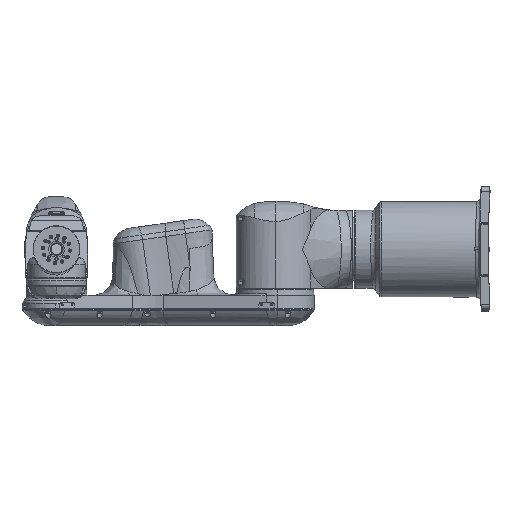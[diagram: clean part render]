
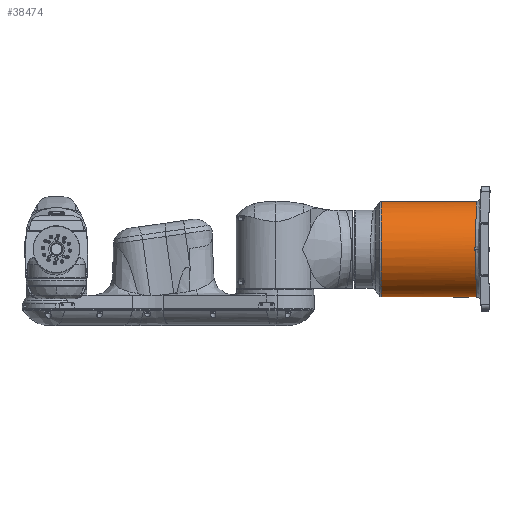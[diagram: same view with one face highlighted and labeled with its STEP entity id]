
A CAD part, left-side view. The second image highlights one B-rep face of the part: STEP entity #38474.
In plain terms, the highlighted cylindrical face has radius 91.5 mm (diameter 183 mm), a partial arc.
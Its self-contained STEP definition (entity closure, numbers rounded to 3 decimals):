
#944 = EDGE_CURVE ( 'NONE', #69319, #95510, #19509, .T. ) ;
#5030 = VERTEX_POINT ( 'NONE', #102233 ) ;
#5532 = LINE ( 'NONE', #108097, #35534 ) ;
#7157 = VECTOR ( 'NONE', #74802, 1000. ) ;
#8079 = CARTESIAN_POINT ( 'NONE',  ( 1.5, -234.336, -91.5 ) ) ;
#9533 = VERTEX_POINT ( 'NONE', #31709 ) ;
#15737 = ORIENTED_EDGE ( 'NONE', *, *, #75464, .T. ) ;
#16885 = VERTEX_POINT ( 'NONE', #106451 ) ;
#17861 = CARTESIAN_POINT ( 'NONE',  ( 93., -231.152, 0.333 ) ) ;
#19509 = LINE ( 'NONE', #39605, #150591 ) ;
#25044 = B_SPLINE_CURVE_WITH_KNOTS ( 'NONE', 3,
 ( #60784, #149369, #73492, #162239 ),
 .UNSPECIFIED., .F., .F.,
 ( 4, 4 ),
 ( 0., 1. ),
 .UNSPECIFIED. ) ;
#25387 = EDGE_CURVE ( 'NONE', #5030, #128529, #130453, .T. ) ;
#26789 = ORIENTED_EDGE ( 'NONE', *, *, #159710, .T. ) ;
#29302 = VECTOR ( 'NONE', #105894, 1000. ) ;
#31709 = CARTESIAN_POINT ( 'NONE',  ( 93., -231.152, 0.333 ) ) ;
#35534 = VECTOR ( 'NONE', #158634, 1000. ) ;
#37554 = CIRCLE ( 'NONE', #43563, 91.5 ) ;
#38474 = ADVANCED_FACE ( 'NONE', ( #94382 ), #141894, .T. ) ;
#39406 = CARTESIAN_POINT ( 'NONE',  ( 93., -231.152, -0.333 ) ) ;
#39605 = CARTESIAN_POINT ( 'NONE',  ( 1.5, -257., -91.5 ) ) ;
#41355 = CARTESIAN_POINT ( 'NONE',  ( 93., -231.152, 0.333 ) ) ;
#42274 = DIRECTION ( 'NONE',  ( 0., 1., 0. ) ) ;
#43563 = AXIS2_PLACEMENT_3D ( 'NONE', #136985, #61212, #149766 ) ;
#44736 =( BOUNDED_CURVE ( )  B_SPLINE_CURVE ( 3, ( #81252, #68542, #94042, #17861 ),
 .UNSPECIFIED., .F., .F. ) 
 B_SPLINE_CURVE_WITH_KNOTS ( ( 4, 4 ),
 ( 3.142, 4.709 ),
 .UNSPECIFIED. ) 
 CURVE ( )  GEOMETRIC_REPRESENTATION_ITEM ( )  RATIONAL_B_SPLINE_CURVE ( ( 1., 0.806, 0.806, 1. ) ) 
 REPRESENTATION_ITEM ( '' )  );
#52841 = VERTEX_POINT ( 'NONE', #84875 ) ;
#54376 = ORIENTED_EDGE ( 'NONE', *, *, #25387, .F. ) ;
#54666 = CARTESIAN_POINT ( 'NONE',  ( 93., -239.002, 0.059 ) ) ;
#55923 = DIRECTION ( 'NONE',  ( 0., 0., 1. ) ) ;
#58889 = CARTESIAN_POINT ( 'NONE',  ( 93., -231.152, -0.333 ) ) ;
#60114 = CARTESIAN_POINT ( 'NONE',  ( 1.5, -234.336, 91.5 ) ) ;
#60784 = CARTESIAN_POINT ( 'NONE',  ( 93., -239.002, -0.059 ) ) ;
#61212 = DIRECTION ( 'NONE',  ( 0., -1., 0. ) ) ;
#68542 = CARTESIAN_POINT ( 'NONE',  ( 54.945, -234.336, 91.5 ) ) ;
#69319 = VERTEX_POINT ( 'NONE', #162935 ) ;
#73492 = CARTESIAN_POINT ( 'NONE',  ( 93., -233.769, -0.242 ) ) ;
#74742 = EDGE_LOOP ( 'NONE', ( #107467, #152014, #26789, #112174, #15737, #54376, #136346, #124848, #163547 ) ) ;
#74802 = DIRECTION ( 'NONE',  ( 0., -1., 0. ) ) ;
#74897 = LINE ( 'NONE', #137902, #7157 ) ;
#75464 = EDGE_CURVE ( 'NONE', #9533, #128529, #77545, .T. ) ;
#77545 = B_SPLINE_CURVE_WITH_KNOTS ( 'NONE', 3,
 ( #41355, #92349, #130478, #54666 ),
 .UNSPECIFIED., .F., .F.,
 ( 4, 4 ),
 ( 0., 1. ),
 .UNSPECIFIED. ) ;
#81252 = CARTESIAN_POINT ( 'NONE',  ( 1.5, -234.336, 91.5 ) ) ;
#84271 = CARTESIAN_POINT ( 'NONE',  ( 54.945, -234.336, -91.5 ) ) ;
#84778 = EDGE_CURVE ( 'NONE', #52841, #159186, #25044, .T. ) ;
#84875 = CARTESIAN_POINT ( 'NONE',  ( 93., -239.002, -0.059 ) ) ;
#91533 = CARTESIAN_POINT ( 'NONE',  ( 1.5, -51.676, -91.5 ) ) ;
#92349 = CARTESIAN_POINT ( 'NONE',  ( 93., -233.769, 0.242 ) ) ;
#94042 = CARTESIAN_POINT ( 'NONE',  ( 92.805, -233.019, 53.778 ) ) ;
#94382 = FACE_OUTER_BOUND ( 'NONE', #74742, .T. ) ;
#95510 = VERTEX_POINT ( 'NONE', #91533 ) ;
#102233 = CARTESIAN_POINT ( 'NONE',  ( 93., -239., 0. ) ) ;
#105894 = DIRECTION ( 'NONE',  ( 0., -0.035, 0.999 ) ) ;
#106430 = CARTESIAN_POINT ( 'NONE',  ( 93., -239., 0. ) ) ;
#106451 = CARTESIAN_POINT ( 'NONE',  ( 1.5, -51.676, 91.5 ) ) ;
#107467 = ORIENTED_EDGE ( 'NONE', *, *, #944, .T. ) ;
#108097 = CARTESIAN_POINT ( 'NONE',  ( 93., -239.002, -0.059 ) ) ;
#112174 = ORIENTED_EDGE ( 'NONE', *, *, #163806, .T. ) ;
#112825 = EDGE_CURVE ( 'NONE', #95510, #16885, #37554, .T. ) ;
#113295 = EDGE_CURVE ( 'NONE', #52841, #5030, #5532, .T. ) ;
#124848 = ORIENTED_EDGE ( 'NONE', *, *, #84778, .T. ) ;
#126820 = AXIS2_PLACEMENT_3D ( 'NONE', #144023, #131734, #55923 ) ;
#128529 = VERTEX_POINT ( 'NONE', #139828 ) ;
#130453 = LINE ( 'NONE', #106430, #29302 ) ;
#130478 = CARTESIAN_POINT ( 'NONE',  ( 93., -236.386, 0.15 ) ) ;
#131455 =( BOUNDED_CURVE ( )  B_SPLINE_CURVE ( 3, ( #58889, #134678, #84271, #8079 ),
 .UNSPECIFIED., .F., .F. ) 
 B_SPLINE_CURVE_WITH_KNOTS ( ( 4, 4 ),
 ( 1.574, 3.142 ),
 .UNSPECIFIED. ) 
 CURVE ( )  GEOMETRIC_REPRESENTATION_ITEM ( )  RATIONAL_B_SPLINE_CURVE ( ( 1., 0.806, 0.806, 1. ) ) 
 REPRESENTATION_ITEM ( '' )  );
#131734 = DIRECTION ( 'NONE',  ( 0., 1., 0. ) ) ;
#134082 = VERTEX_POINT ( 'NONE', #60114 ) ;
#134678 = CARTESIAN_POINT ( 'NONE',  ( 92.805, -233.019, -53.778 ) ) ;
#136346 = ORIENTED_EDGE ( 'NONE', *, *, #113295, .F. ) ;
#136985 = CARTESIAN_POINT ( 'NONE',  ( 1.5, -51.676, 0. ) ) ;
#137902 = CARTESIAN_POINT ( 'NONE',  ( 1.5, -257., 91.5 ) ) ;
#139828 = CARTESIAN_POINT ( 'NONE',  ( 93., -239.002, 0.059 ) ) ;
#141894 = CYLINDRICAL_SURFACE ( 'NONE', #126820, 91.5 ) ;
#144023 = CARTESIAN_POINT ( 'NONE',  ( 1.5, -257., 0. ) ) ;
#149369 = CARTESIAN_POINT ( 'NONE',  ( 93., -236.386, -0.15 ) ) ;
#149766 = DIRECTION ( 'NONE',  ( 0., 0., 1. ) ) ;
#150591 = VECTOR ( 'NONE', #42274, 1000. ) ;
#152014 = ORIENTED_EDGE ( 'NONE', *, *, #112825, .T. ) ;
#154972 = EDGE_CURVE ( 'NONE', #159186, #69319, #131455, .T. ) ;
#158634 = DIRECTION ( 'NONE',  ( 0., 0.035, 0.999 ) ) ;
#159186 = VERTEX_POINT ( 'NONE', #39406 ) ;
#159710 = EDGE_CURVE ( 'NONE', #16885, #134082, #74897, .T. ) ;
#162239 = CARTESIAN_POINT ( 'NONE',  ( 93., -231.152, -0.333 ) ) ;
#162935 = CARTESIAN_POINT ( 'NONE',  ( 1.5, -234.336, -91.5 ) ) ;
#163547 = ORIENTED_EDGE ( 'NONE', *, *, #154972, .T. ) ;
#163806 = EDGE_CURVE ( 'NONE', #134082, #9533, #44736, .T. ) ;
